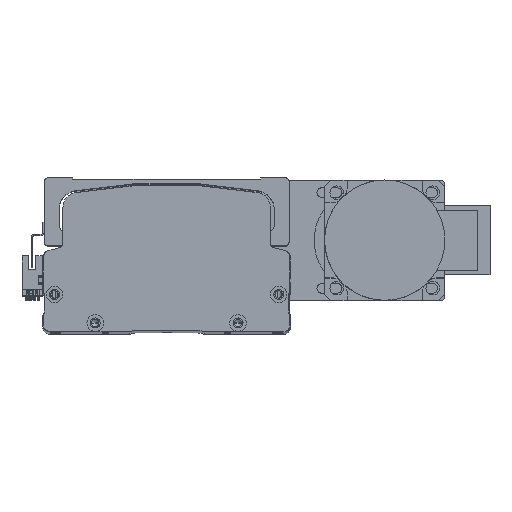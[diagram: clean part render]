
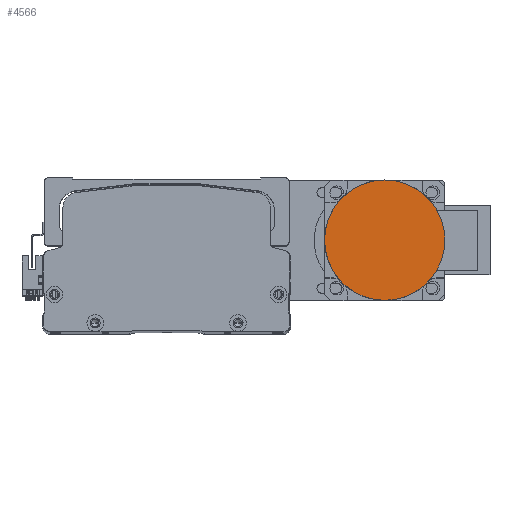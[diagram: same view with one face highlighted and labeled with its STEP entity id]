
A CAD part, top view. The second image highlights one B-rep face of the part: STEP entity #4566.
In plain terms, the highlighted planar face has unit normal (0, 0, 1) as drawn and (0, -1, 0) by its records, which use the part's own axes.
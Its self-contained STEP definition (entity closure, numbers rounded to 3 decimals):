
#658 = CARTESIAN_POINT ( 'NONE',  ( 0., -27., 0. ) ) ;
#4489 = DIRECTION ( 'NONE',  ( 0., -1., 0. ) ) ;
#4566 = ADVANCED_FACE ( 'NONE', ( #15319 ), #7662, .F. ) ;
#5372 = DIRECTION ( 'NONE',  ( 0., 0., -1. ) ) ;
#7662 = PLANE ( 'NONE',  #42578 ) ;
#15319 = FACE_OUTER_BOUND ( 'NONE', #42743, .T. ) ;
#17118 = CARTESIAN_POINT ( 'NONE',  ( 0., -27., 0. ) ) ;
#20795 = VERTEX_POINT ( 'NONE', #29148 ) ;
#21810 = DIRECTION ( 'NONE',  ( 0., 1., 0. ) ) ;
#23625 = EDGE_CURVE ( 'NONE', #20795, #32963, #38940, .T. ) ;
#27427 = ORIENTED_EDGE ( 'NONE', *, *, #52129, .T. ) ;
#29148 = CARTESIAN_POINT ( 'NONE',  ( 0., -27., -40. ) ) ;
#32535 = CARTESIAN_POINT ( 'NONE',  ( 0., -27., 0. ) ) ;
#32963 = VERTEX_POINT ( 'NONE', #45204 ) ;
#33431 = DIRECTION ( 'NONE',  ( 0., -1., 0. ) ) ;
#37273 = DIRECTION ( 'NONE',  ( 0., 0., -1. ) ) ;
#38940 = CIRCLE ( 'NONE', #55507, 40. ) ;
#42578 = AXIS2_PLACEMENT_3D ( 'NONE', #17118, #21810, #54538 ) ;
#42743 = EDGE_LOOP ( 'NONE', ( #46053, #27427 ) ) ;
#45204 = CARTESIAN_POINT ( 'NONE',  ( 0., -27., 40. ) ) ;
#46053 = ORIENTED_EDGE ( 'NONE', *, *, #23625, .T. ) ;
#51140 = CIRCLE ( 'NONE', #58852, 40. ) ;
#52129 = EDGE_CURVE ( 'NONE', #32963, #20795, #51140, .T. ) ;
#54538 = DIRECTION ( 'NONE',  ( 0., 0., 1. ) ) ;
#55507 = AXIS2_PLACEMENT_3D ( 'NONE', #32535, #4489, #37273 ) ;
#58852 = AXIS2_PLACEMENT_3D ( 'NONE', #658, #33431, #5372 ) ;
